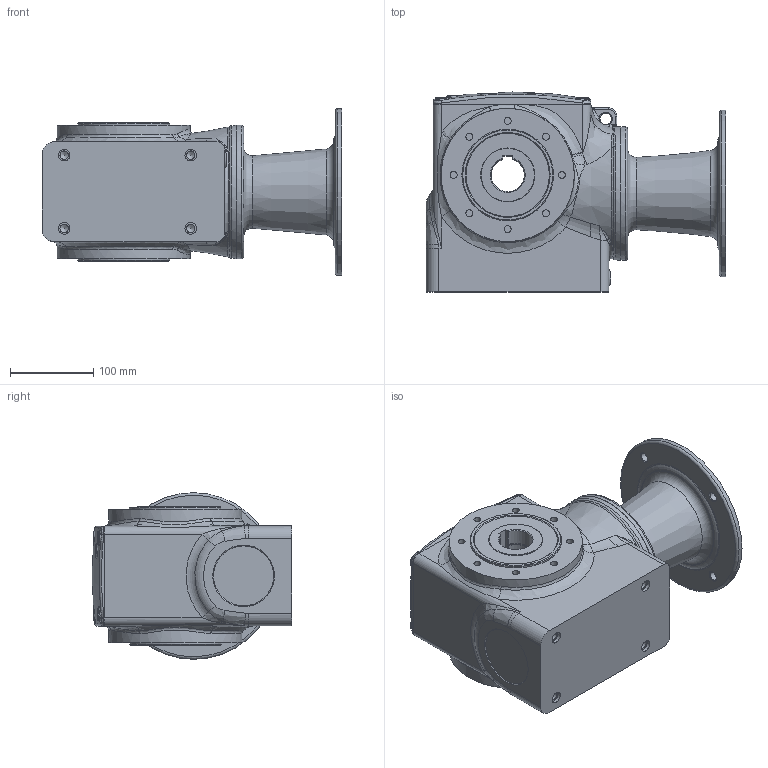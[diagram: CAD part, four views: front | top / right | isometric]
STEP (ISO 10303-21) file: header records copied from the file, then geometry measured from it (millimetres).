
FILE_DESCRIPTION(/* description */ (''),/* implementation_level */ '2;1');
FILE_NAME(/* name */ 'Z:\Dertec\RVS pakket tekeningen\Kasten\FSA + FS serie\FSA\FSA68\Step Customer\FSA68 HA40 AMFL 132B14A #.stp',/* time_stamp */ '2017-12-08T12:21:20+01:00',/* author */ ('Dertec'),/* organization */ (''),/* preprocessor_version */ 'ST-DEVELOPER v16.1',/* originating_system */ 'Autodesk Inventor 2016',/* authorisation */ '');
FILE_SCHEMA (('AUTOMOTIVE_DESIGN { 1 0 10303 214 3 1 1 }'));
Length unit declared in the file: inch
Products named in the file (1): Part78
Bounding box: 360 x 240.13 x 200 mm (x, y, z)
Volume: 6692618.7 mm3; surface area: 531860 mm2
Topology: 1 solids, 5 shells, 504 faces, 1128 edges, 696 vertices
Faces by surface type: cylinder 146, plane 141, bspline 121, torus 49, cone 45, sphere 2
Full cylindrical faces by diameter (mm): 4.134 x8, 5.5 x8, 6.647 x4, 8.376 x16, 8.917 x1, 9 x4, 10.106 x4, 11 x12, 14 x5, 47 x1, 64.9 x4, 65 x2, 66 x1, 72 x1, 74.3 x1, 75 x1, 82 x1, 90 x1, 90.4 x1, 93.5 x1, 100 x3, 103.5 x2, 110 x2, 116.1 x1, 119.1 x1, 130 x1, 136 x1, 139 x1, 160 x3, 200 x1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
Entity records: 19962 total; most frequent: CARTESIAN_POINT 9745, DIRECTION 1870, ORIENTED_EDGE 1840, EDGE_CURVE 920, AXIS2_PLACEMENT_3D 845, EDGE_LOOP 742, VERTEX_POINT 646, FACE_OUTER_BOUND 504
